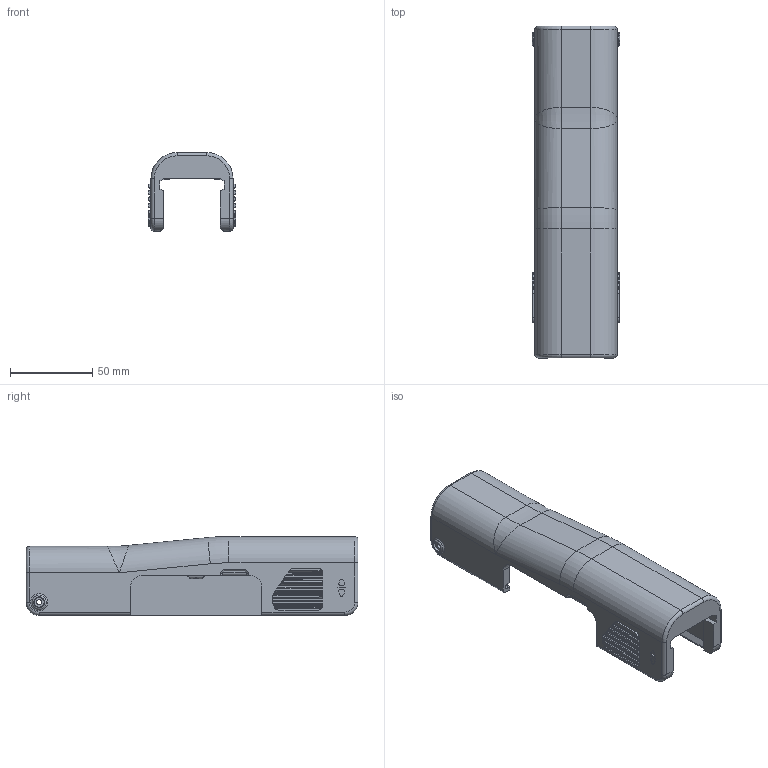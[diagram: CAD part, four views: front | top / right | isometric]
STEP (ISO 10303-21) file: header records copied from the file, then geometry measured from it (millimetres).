
FILE_DESCRIPTION(('HOOPS Exchange Step'),'2;1');
FILE_NAME('/private/var/mobile/Containers/Data/Application/BD34B793-0C88-4333-9201-EB529B1DDC1B/tmp/export/temp_export','2026-07-21T22:05:55+19:00',('mobile'),('Shapr3D Limited'),'HOOPS Exchange 2026.3','Shapr3D','Authorized');
FILE_SCHEMA( ('AP242_MANAGED_MODEL_BASED_3D_ENGINEERING_MIM_LF {1 0 10303 442 1 1 4}') );
Length unit declared in the file: millimetre
Products named in the file (3): Cheek pad; Cheek Pad (1).step; root
Assembly tree (2 placements, depth 3):
  root
    Cheek Pad (1).step
      Cheek pad
Bounding box: 53 x 202 x 48 mm (x, y, z)
Volume: 121440.4 mm3; surface area: 50630.1 mm2
Topology: 1 solids, 1 shells, 271 faces, 745 edges, 486 vertices
Faces by surface type: plane 140, cylinder 106, torus 14, bspline 7, extrusion 4
Full cylindrical faces by diameter (mm): 3.2 x2, 3.25 x1, 6 x2
Entity records: 19466 total; most frequent: CARTESIAN_POINT 12575, ORIENTED_EDGE 1486, DIRECTION 1370, EDGE_CURVE 743, VERTEX_POINT 486, VECTOR 462, LINE 458, AXIS2_PLACEMENT_3D 454
